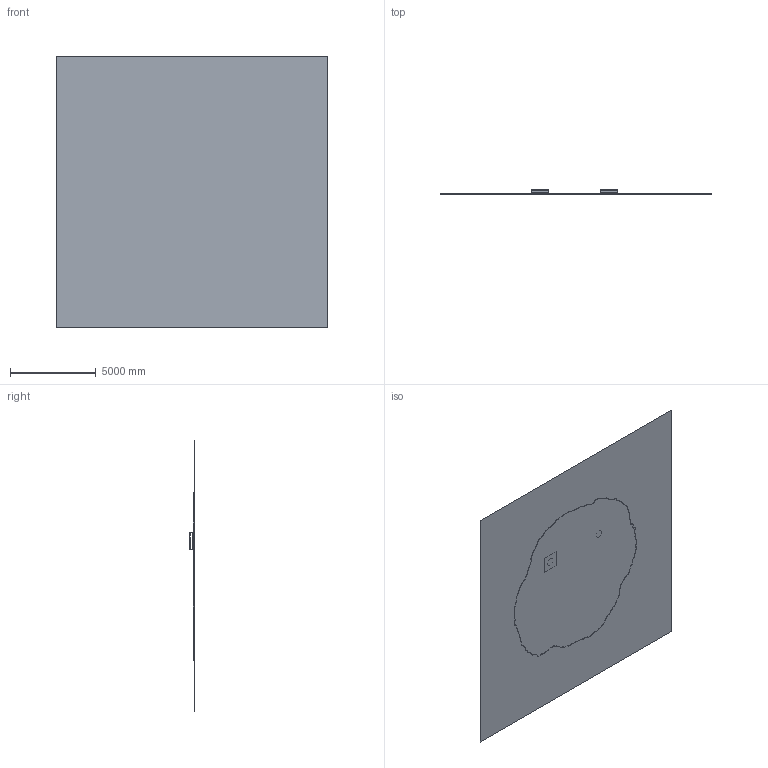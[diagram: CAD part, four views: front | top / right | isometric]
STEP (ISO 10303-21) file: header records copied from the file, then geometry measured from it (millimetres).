
FILE_DESCRIPTION(/* description */ (''),/* implementation_level */ '2;1');
FILE_NAME(/* name */ 'Arbo_2839_3D model',/* time_stamp */ '2022-09-05T16:17:45+02:00',/* author */ (''),/* organization */ (''),/* preprocessor_version */ 'ST-DEVELOPER v16.5',/* originating_system */ '',/* authorisation */ '');
FILE_SCHEMA (('AUTOMOTIVE_DESIGN'));
Length unit declared in the file: centimetre
Products named in the file (1): Document
Bounding box: 15799.3 x 253.37 x 15799.3 mm (x, y, z)
Volume: 3864385669.3 mm3; surface area: 411326636.7 mm2
Topology: 3 solids, 4 shells, 793 faces, 2362 edges, 1576 vertices
Faces by surface type: bspline 769, plane 24
Entity records: 24584 total; most frequent: CARTESIAN_POINT 12583, ORIENTED_EDGE 4720, EDGE_CURVE 2362, VERTEX_POINT 1576, B_SPLINE_CURVE_WITH_KNOTS 820, EDGE_LOOP 801, ADVANCED_FACE 793, FACE_OUTER_BOUND 793
